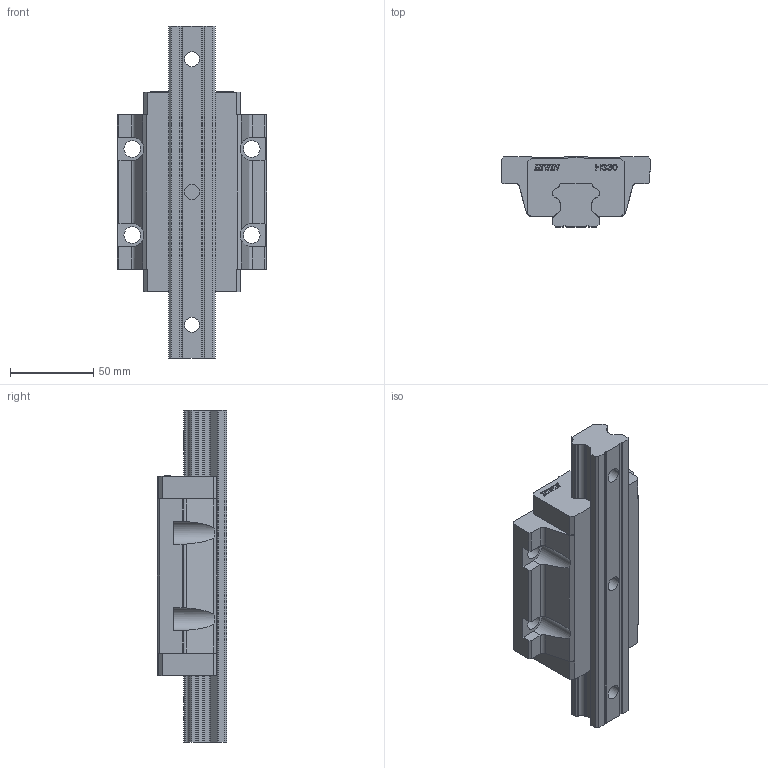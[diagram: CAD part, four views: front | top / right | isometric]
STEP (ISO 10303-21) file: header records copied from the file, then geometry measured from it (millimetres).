
FILE_DESCRIPTION((''),'2;1');
FILE_NAME('HGW30_ASM','2006-08-23T',('lansro'),(''),'PRO/ENGINEER BY PARAMETRIC TECHNOLOGY CORPORATION, 2004360','PRO/ENGINEER BY PARAMETRIC TECHNOLOGY CORPORATION, 2004360','');
FILE_SCHEMA(('CONFIG_CONTROL_DESIGN'));
Length unit declared in the file: millimetre
Products named in the file (3): HGW30; HGR30; HGW30_ASM
Assembly tree (2 placements, depth 2):
  HGW30_ASM
    HGW30
    HGR30
Bounding box: 90 x 42 x 200 mm (x, y, z)
Volume: 356015.6 mm3; surface area: 64234.7 mm2
Topology: 2 solids, 2 shells, 493 faces, 1428 edges, 952 vertices
Faces by surface type: plane 361, cylinder 72, extrusion 60
Entity records: 16534 total; most frequent: CARTESIAN_POINT 3549, ORIENTED_EDGE 2856, DIRECTION 2364, EDGE_CURVE 1428, VECTOR 1208, LINE 1148, VERTEX_POINT 952, AXIS2_PLACEMENT_3D 578
